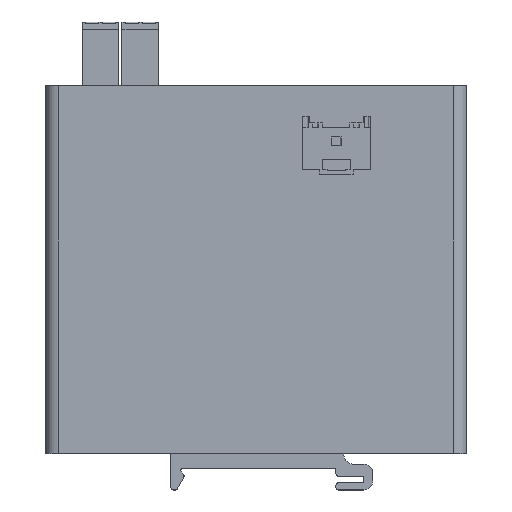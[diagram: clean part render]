
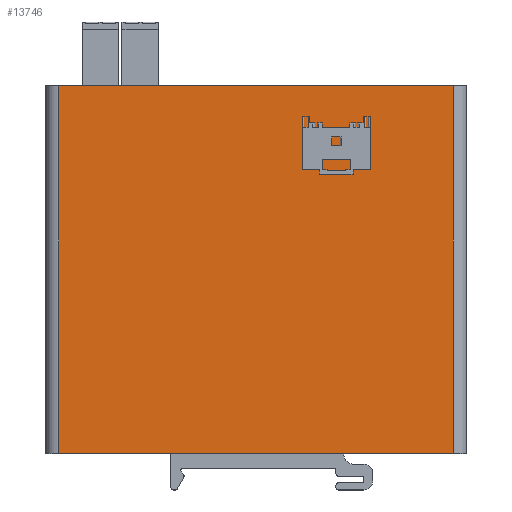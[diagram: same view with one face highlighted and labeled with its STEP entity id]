
A CAD part, top view. The second image highlights one B-rep face of the part: STEP entity #13746.
In plain terms, the highlighted planar face has unit normal (0, 0, 1).
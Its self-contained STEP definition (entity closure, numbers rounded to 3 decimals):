
#41=DIRECTION('',(1.,0.,0.));
#42=VECTOR('',#41,89.);
#43=CARTESIAN_POINT('',(-44.5,-41.5,15.));
#44=LINE('',#43,#42);
#49=DIRECTION('',(0.,1.,0.));
#50=VECTOR('',#49,83.);
#51=CARTESIAN_POINT('',(44.5,-41.5,15.));
#52=LINE('',#51,#50);
#58=DIRECTION('',(-1.,0.,0.));
#59=VECTOR('',#58,89.);
#60=CARTESIAN_POINT('',(44.5,41.5,15.));
#61=LINE('',#60,#59);
#2515=DIRECTION('',(0.,-1.,0.));
#2516=VECTOR('',#2515,83.);
#2517=CARTESIAN_POINT('',(-44.5,41.5,15.));
#2518=LINE('',#2517,#2516);
#9297=CARTESIAN_POINT('',(44.5,-41.5,15.));
#9299=VERTEX_POINT('',#9297);
#9305=CARTESIAN_POINT('',(-44.5,-41.5,15.));
#9306=VERTEX_POINT('',#9305);
#9308=CARTESIAN_POINT('',(44.5,41.5,15.));
#9310=VERTEX_POINT('',#9308);
#9311=CARTESIAN_POINT('',(-44.5,41.5,15.));
#9312=VERTEX_POINT('',#9311);
#13734=CARTESIAN_POINT('',(0.,0.,15.));
#13735=DIRECTION('',(0.,0.,1.));
#13736=DIRECTION('',(1.,0.,0.));
#13737=AXIS2_PLACEMENT_3D('',#13734,#13735,#13736);
#13738=PLANE('',#13737);
#13739=ORIENTED_EDGE('',*,*,#12412,.F.);
#13740=ORIENTED_EDGE('',*,*,#12397,.F.);
#13742=ORIENTED_EDGE('',*,*,#13741,.F.);
#13743=ORIENTED_EDGE('',*,*,#12423,.F.);
#13744=EDGE_LOOP('',(#13739,#13740,#13742,#13743));
#13745=FACE_OUTER_BOUND('',#13744,.F.);
#12397=EDGE_CURVE('',#9306,#9299,#44,.T.);
#12412=EDGE_CURVE('',#9299,#9310,#52,.T.);
#12423=EDGE_CURVE('',#9310,#9312,#61,.T.);
#13741=EDGE_CURVE('',#9312,#9306,#2518,.T.);
#13746=ADVANCED_FACE('',(#13745),#13738,.T.);
